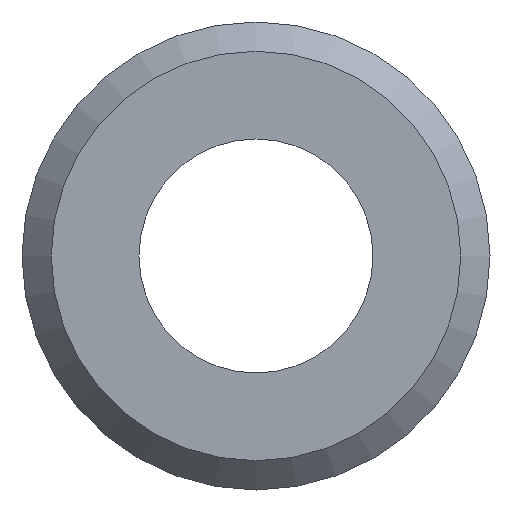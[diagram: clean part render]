
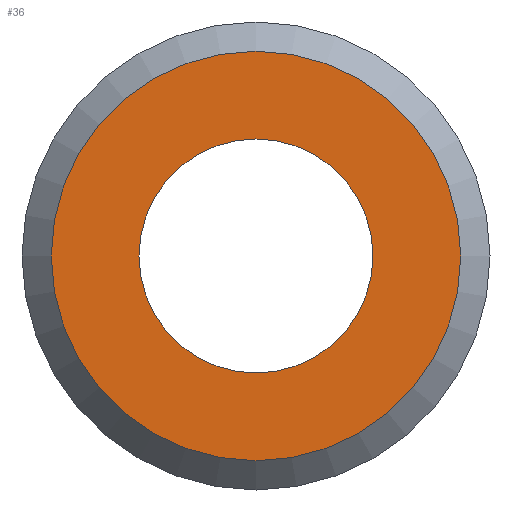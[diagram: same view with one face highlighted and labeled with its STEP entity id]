
A CAD part, front view. The second image highlights one B-rep face of the part: STEP entity #36.
In plain terms, the highlighted planar face has unit normal (0, -1, 0).
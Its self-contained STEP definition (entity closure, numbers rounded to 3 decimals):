
#36 = ADVANCED_FACE( '', ( #71, #72 ), #73, .F. );
#71 = FACE_OUTER_BOUND( '', #102, .T. );
#72 = FACE_BOUND( '', #103, .T. );
#73 = PLANE( '', #104 );
#102 = EDGE_LOOP( '', ( #133 ) );
#103 = EDGE_LOOP( '', ( #134 ) );
#104 = AXIS2_PLACEMENT_3D( '', #135, #136, #137 );
#133 = ORIENTED_EDGE( '', *, *, #159, .T. );
#134 = ORIENTED_EDGE( '', *, *, #152, .T. );
#135 = CARTESIAN_POINT( '', ( 0., 0., 0. ) );
#136 = DIRECTION( '', ( 0., 1., 0. ) );
#137 = DIRECTION( '', ( 0., 0., 1. ) );
#152 = EDGE_CURVE( '', #165, #165, #166, .T. );
#159 = EDGE_CURVE( '', #176, #176, #177, .F. );
#165 = VERTEX_POINT( '', #183 );
#166 = CIRCLE( '', #184, 4. );
#176 = VERTEX_POINT( '', #194 );
#177 = CIRCLE( '', #195, 7. );
#183 = CARTESIAN_POINT( '', ( 0., 0., -4. ) );
#184 = AXIS2_PLACEMENT_3D( '', #201, #202, #203 );
#194 = CARTESIAN_POINT( '', ( 0., 0., 7. ) );
#195 = AXIS2_PLACEMENT_3D( '', #213, #214, #215 );
#201 = CARTESIAN_POINT( '', ( 0., 0., 0. ) );
#202 = DIRECTION( '', ( 0., 1., 0. ) );
#203 = DIRECTION( '', ( 0., 0., -1. ) );
#213 = CARTESIAN_POINT( '', ( 0., 0., 0. ) );
#214 = DIRECTION( '', ( 0., 1., 0. ) );
#215 = DIRECTION( '', ( 0., 0., 1. ) );
